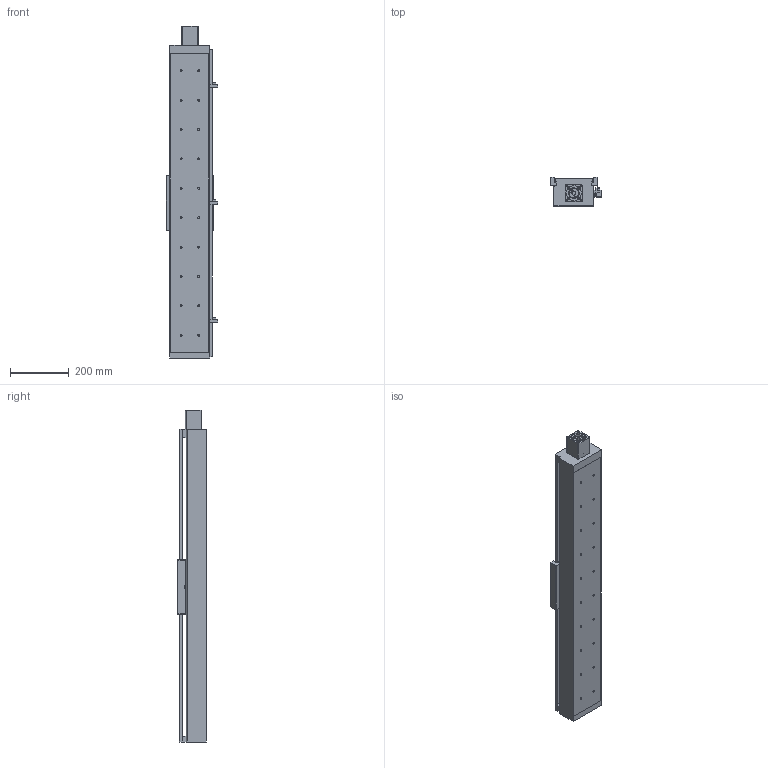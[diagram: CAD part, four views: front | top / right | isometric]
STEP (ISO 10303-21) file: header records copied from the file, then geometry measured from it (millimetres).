
FILE_DESCRIPTION((''),'2;1');
FILE_NAME('E:\libraries\UIA actuator library 2009\standard actuator\UIA136 ball screw 20\UIA136R15NDC-_ _ _-R20_ _-M60-P13-C10-S\UIA136R15NDC-800-R20_ _-M60-P13-C10-S.stp','2016-04-27T10:06:18',('h029'),(''),'Autodesk Inventor 11','Autodesk Inventor 11','');
FILE_SCHEMA(('AUTOMOTIVE_DESIGN { 1 0 10303 214 1 1 1 1 }'));
Length unit declared in the file: millimetre
Products named in the file (10): UIA136R15NDC-800; UIA136R15NDC-body; motor mount F60; SOH-32C; SOH-32C-3; SOH-32C-1; SOH-32C-2; Carriage; Sensor Switch; sensor rail
Assembly tree (9 placements, depth 3):
  UIA136R15NDC-800
    UIA136R15NDC-body
    motor mount F60
    SOH-32C
      SOH-32C-3
      SOH-32C-1
      SOH-32C-2
    Carriage
    Sensor Switch
    sensor rail
Bounding box: 174.5 x 98 x 1130 mm (x, y, z)
Volume: 4306178.1 mm3; surface area: 1182691.7 mm2
Topology: 8 solids, 8 shells, 507 faces, 1329 edges, 873 vertices
Faces by surface type: plane 313, bspline 150, cylinder 40, cone 4
Full cylindrical faces by diameter (mm): 2.459 x2, 3.242 x2, 4.5 x2, 5.5 x3, 7.5 x2, 10 x2, 12 x1, 14 x1, 32 x3, 37 x1, 41.9 x1, 42.1 x1, 43.5 x1
Entity records: 16651 total; most frequent: CARTESIAN_POINT 4970, ORIENTED_EDGE 2250, DIRECTION 2186, EDGE_CURVE 1125, VERTEX_POINT 808, VECTOR 798, LINE 798, EDGE_LOOP 773
